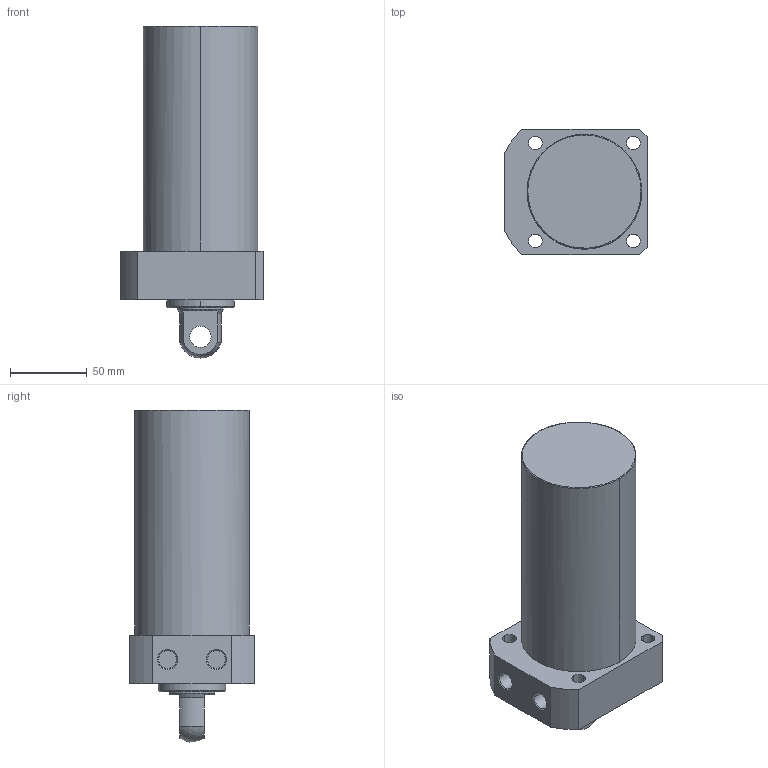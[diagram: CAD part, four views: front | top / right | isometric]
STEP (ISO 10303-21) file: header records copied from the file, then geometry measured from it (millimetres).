
FILE_DESCRIPTION((' '),'2;1');
FILE_NAME( 'TLLR-075CP-110.STEP.stp', '2025-10-24T16:35:15', (' '), ('--- Datakit www.datakit.com---'), ' Datakit CrossCadWare V2024.1 Dec 21 2023', 'Mastercam 2025', ' ');
FILE_SCHEMA(('AUTOMOTIVE_DESIGN { 1 0 10303 214 1 1 1 1 }'));
Length unit declared in the file: millimetre
Products named in the file (1): TLLR-075CP-110
Bounding box: 93 x 82 x 216.9 mm (x, y, z)
Volume: 892876.2 mm3; surface area: 67874.6 mm2
Topology: 1 solids, 1 shells, 57 faces, 164 edges, 116 vertices
Faces by surface type: cylinder 28, plane 18, cone 8, torus 2, sphere 1
Entity records: 2006 total; most frequent: DIRECTION 378, CARTESIAN_POINT 350, ORIENTED_EDGE 328, EDGE_CURVE 164, AXIS2_PLACEMENT_3D 160, VERTEX_POINT 116, CIRCLE 102, EDGE_LOOP 74
